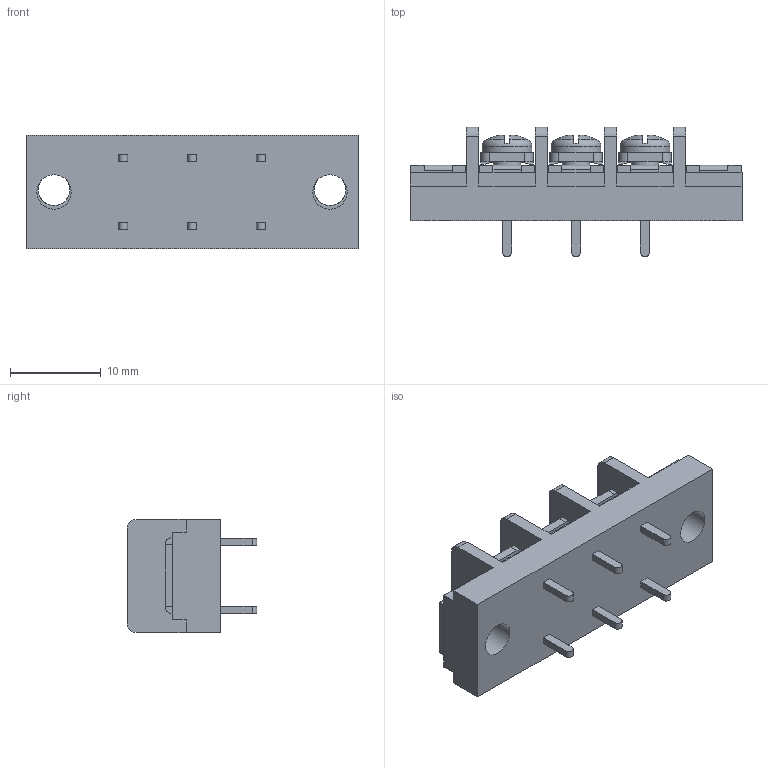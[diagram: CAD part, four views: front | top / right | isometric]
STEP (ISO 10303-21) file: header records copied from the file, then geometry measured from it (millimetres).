
FILE_DESCRIPTION(/* description */ ('Alibre Inc.'),/* implementation_level */ '2;1');
FILE_NAME(/* name */ 'export0',/* time_stamp */ '2015-10-26T18:26:54+09:00',/* author */ (''),/* organization */ (''),/* preprocessor_version */ 'ST-DEVELOPER v14',/* originating_system */ 'Alibre',/* authorisation */ '');
FILE_SCHEMA (('CONFIG_CONTROL_DESIGN'));
Length unit declared in the file: centimetre
Products named in the file (1): ID_1
Bounding box: 36.68 x 14.3 x 12.5 mm (x, y, z)
Volume: 2956.9 mm3; surface area: 2791 mm2
Topology: 1 solids, 17 shells, 739 faces, 1970 edges, 1302 vertices
Faces by surface type: plane 565, bspline 104, cylinder 46, cone 12, torus 6, sphere 6
Full cylindrical faces by diameter (mm): 3 x3, 3.5 x2, 3.8 x2, 5.5 x3
Entity records: 21893 total; most frequent: CARTESIAN_POINT 5002, ORIENTED_EDGE 3888, DIRECTION 2492, EDGE_CURVE 1944, VECTOR 1460, LINE 1460, VERTEX_POINT 1292, EDGE_LOOP 804
